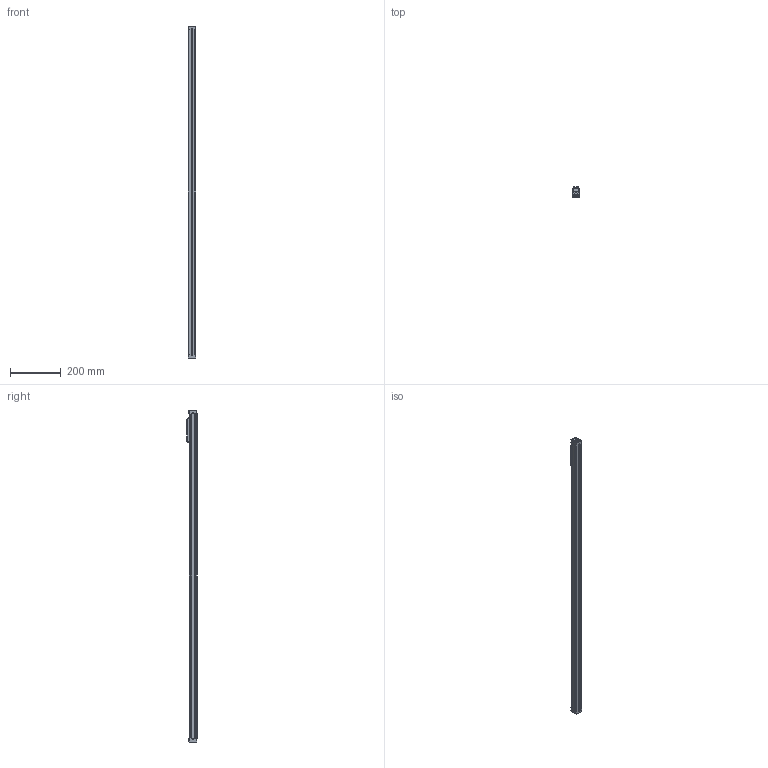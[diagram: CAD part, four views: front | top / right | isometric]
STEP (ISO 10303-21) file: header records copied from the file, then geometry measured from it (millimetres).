
FILE_DESCRIPTION (( 'STEP AP203' ), '1' );
FILE_NAME ('MXP16N_NP_SK45.000_MXP-496350-1.step', '2025-08-29T15:14:26', ( '' ), ( '' ), 'SwSTEP 2.0', 'SolidWorks 2024', '' );
FILE_SCHEMA (( 'CONFIG_CONTROL_DESIGN' ));
Length unit declared in the file: inch
Products named in the file (3): MXP16N_NP_SK45.000_MXP-496350-1; 81169500_MXP16N_NP_SK45.000_MXP-496350-1; Base_MXP16N_NP_SK45.000_MXP-496350-1
Assembly tree (2 placements, depth 2):
  MXP16N_NP_SK45.000_MXP-496350-1
    81169500_MXP16N_NP_SK45.000_MXP-496350-1
    Base_MXP16N_NP_SK45.000_MXP-496350-1
Bounding box: 30 x 39.25 x 1302.09 mm (x, y, z)
Volume: 772885 mm3; surface area: 298599.8 mm2
Topology: 2 solids, 12 shells, 747 faces, 1812 edges, 1140 vertices
Faces by surface type: plane 447, cylinder 199, cone 45, torus 44, bspline 8, sphere 4
Full cylindrical faces by diameter (mm): 2.705 x8, 3 x6, 3.175 x2, 3.454 x8, 3.51 x2, 3.91 x4, 4.039 x14, 5.5 x16, 6.4 x12, 15.85 x1
Entity records: 21123 total; most frequent: CARTESIAN_POINT 3895, DIRECTION 3642, ORIENTED_EDGE 3254, EDGE_CURVE 1627, AXIS2_PLACEMENT_3D 1323, VERTEX_POINT 1088, LINE 996, VECTOR 996
